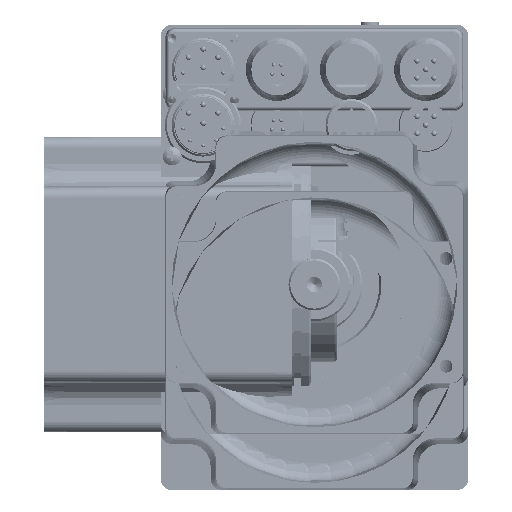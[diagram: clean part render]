
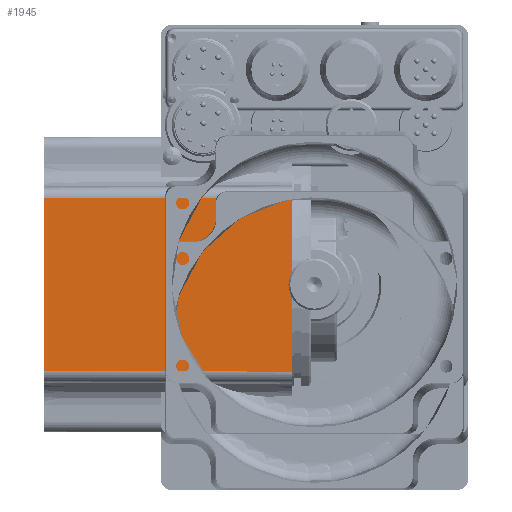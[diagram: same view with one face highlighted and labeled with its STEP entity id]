
A CAD part, front view. The second image highlights one B-rep face of the part: STEP entity #1945.
In plain terms, the highlighted planar face has unit normal (-0.003, -1, 0).
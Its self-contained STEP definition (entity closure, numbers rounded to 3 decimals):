
#1945 = ADVANCED_FACE( '', ( #5532 ), #5533, .T. );
#5532 = FACE_OUTER_BOUND( '', #11331, .T. );
#5533 = PLANE( '', #11332 );
#11331 = EDGE_LOOP( '', ( #28504, #28505, #28506, #28507 ) );
#11332 = AXIS2_PLACEMENT_3D( '', #28508, #28509, #28510 );
#28504 = ORIENTED_EDGE( '', *, *, #40339, .T. );
#28505 = ORIENTED_EDGE( '', *, *, #40340, .T. );
#28506 = ORIENTED_EDGE( '', *, *, #40341, .T. );
#28507 = ORIENTED_EDGE( '', *, *, #40342, .T. );
#28508 = CARTESIAN_POINT( '', ( -5., -40., 0. ) );
#28509 = DIRECTION( '', ( -0.003, -1., 0. ) );
#28510 = DIRECTION( '', ( 1., -0.003, 0. ) );
#40339 = EDGE_CURVE( '', #46822, #46823, #46824, .T. );
#40340 = EDGE_CURVE( '', #46823, #46825, #46826, .T. );
#40341 = EDGE_CURVE( '', #46825, #46827, #46828, .T. );
#40342 = EDGE_CURVE( '', #46827, #46822, #46829, .T. );
#46822 = VERTEX_POINT( '', #65060 );
#46823 = VERTEX_POINT( '', #65061 );
#46824 = LINE( '', #65062, #65063 );
#46825 = VERTEX_POINT( '', #65064 );
#46826 = LINE( '', #65065, #65066 );
#46827 = VERTEX_POINT( '', #65067 );
#46828 = LINE( '', #65068, #65069 );
#46829 = LINE( '', #65070, #65071 );
#65060 = CARTESIAN_POINT( '', ( -73., -39.802, -23.302 ) );
#65061 = CARTESIAN_POINT( '', ( -6., -39.997, -23.497 ) );
#65062 = CARTESIAN_POINT( '', ( -4.991, -40., -23.5 ) );
#65063 = VECTOR( '', #76203, 1000. );
#65064 = CARTESIAN_POINT( '', ( -6., -39.997, 23.497 ) );
#65065 = CARTESIAN_POINT( '', ( -6., -39.997, 0. ) );
#65066 = VECTOR( '', #76204, 1000. );
#65067 = CARTESIAN_POINT( '', ( -73., -39.802, 23.302 ) );
#65068 = CARTESIAN_POINT( '', ( -98.991, -39.727, 23.227 ) );
#65069 = VECTOR( '', #76205, 1000. );
#65070 = CARTESIAN_POINT( '', ( -73., -39.802, 0. ) );
#65071 = VECTOR( '', #76206, 1000. );
#76203 = DIRECTION( '', ( 1., -0.003, -0.003 ) );
#76204 = DIRECTION( '', ( 0., 0., 1. ) );
#76205 = DIRECTION( '', ( -1., 0.003, -0.003 ) );
#76206 = DIRECTION( '', ( 0., 0., -1. ) );
